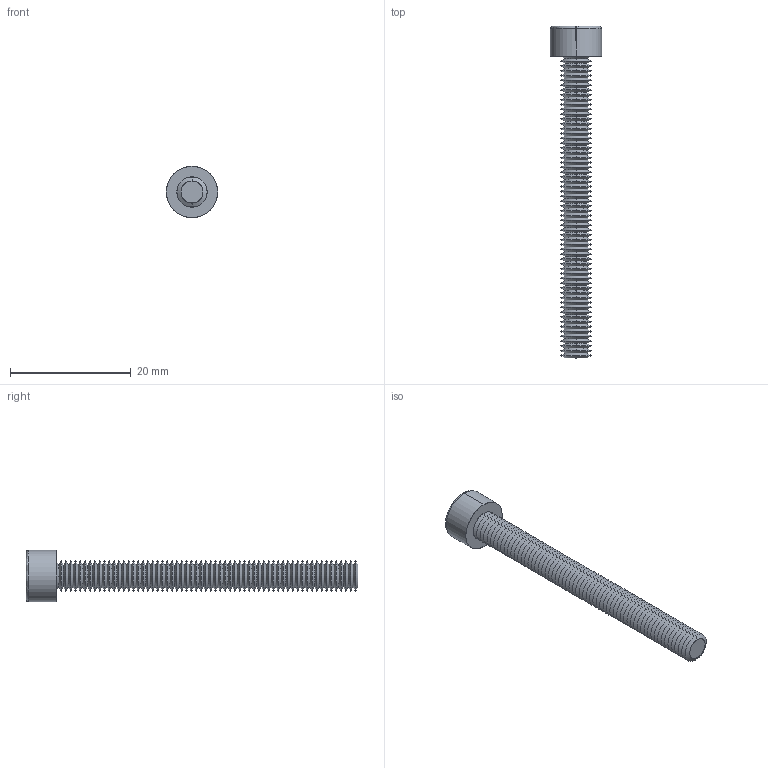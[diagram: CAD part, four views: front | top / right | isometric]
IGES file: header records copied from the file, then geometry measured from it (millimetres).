
Start section: SolidWorks IGES file using analytic representation for surfaces
Global section: file name: C:\Users\ianosborn\Desktop\N0007.91N_v2\N0007.91N_v2_20250519_IGES\91N.050.0500.igs; native system: SolidWorks 2019; preprocessor: SolidWorks 2019; author: IanOsborn; date: 250520.095223; units: millimetre
Bounding box: 8.5 x 55 x 8.5 mm (x, y, z)
Surface area: 1642.8 mm2 (no closed solid volume)
Topology: 0 solids, 0 shells, 278 faces, 1309 edges, 1307 vertices
Faces by surface type: revolution 261, bspline 17
